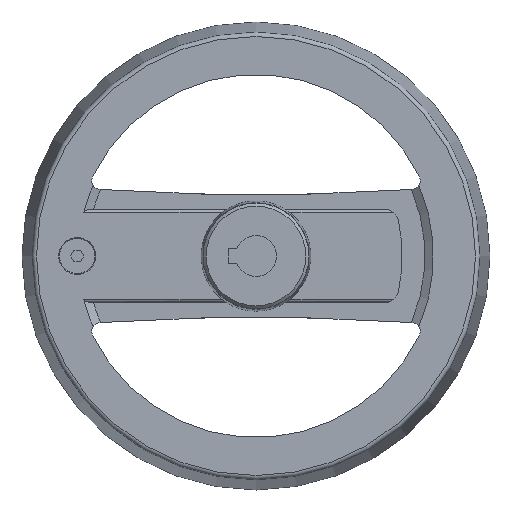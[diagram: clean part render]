
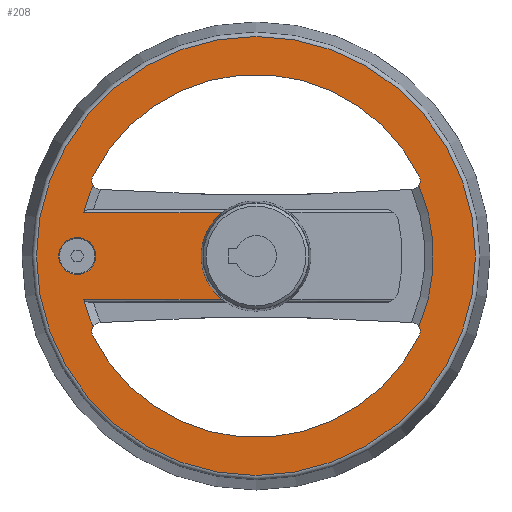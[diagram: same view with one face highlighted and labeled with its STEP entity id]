
A CAD part, left-side view. The second image highlights one B-rep face of the part: STEP entity #208.
In plain terms, the highlighted planar face has unit normal (-1, 0, 0).
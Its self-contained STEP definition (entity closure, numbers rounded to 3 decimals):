
#208 = ADVANCED_FACE( '', ( #370, #371, #372 ), #373, .F. );
#370 = FACE_OUTER_BOUND( '', #635, .T. );
#371 = FACE_BOUND( '', #636, .T. );
#372 = FACE_BOUND( '', #637, .T. );
#373 = PLANE( '', #638 );
#635 = EDGE_LOOP( '', ( #1123 ) );
#636 = EDGE_LOOP( '', ( #1124 ) );
#637 = EDGE_LOOP( '', ( #1125, #1126, #1127, #1128, #1129, #1130, #1131, #1132, #1133, #1134, #1135, #1136 ) );
#638 = AXIS2_PLACEMENT_3D( '', #1137, #1138, #1139 );
#1123 = ORIENTED_EDGE( '', *, *, #1796, .F. );
#1124 = ORIENTED_EDGE( '', *, *, #1723, .T. );
#1125 = ORIENTED_EDGE( '', *, *, #1797, .F. );
#1126 = ORIENTED_EDGE( '', *, *, #1798, .F. );
#1127 = ORIENTED_EDGE( '', *, *, #1799, .F. );
#1128 = ORIENTED_EDGE( '', *, *, #1800, .T. );
#1129 = ORIENTED_EDGE( '', *, *, #1801, .F. );
#1130 = ORIENTED_EDGE( '', *, *, #1802, .F. );
#1131 = ORIENTED_EDGE( '', *, *, #1803, .F. );
#1132 = ORIENTED_EDGE( '', *, *, #1660, .T. );
#1133 = ORIENTED_EDGE( '', *, *, #1804, .T. );
#1134 = ORIENTED_EDGE( '', *, *, #1805, .F. );
#1135 = ORIENTED_EDGE( '', *, *, #1795, .F. );
#1136 = ORIENTED_EDGE( '', *, *, #1806, .T. );
#1137 = CARTESIAN_POINT( '', ( 21.2, 62., -14.74 ) );
#1138 = DIRECTION( '', ( 1., 0., 0. ) );
#1139 = DIRECTION( '', ( 0., 0., -1. ) );
#1660 = EDGE_CURVE( '', #1913, #1921, #1923, .T. );
#1723 = EDGE_CURVE( '', #2036, #2036, #2037, .T. );
#1795 = EDGE_CURVE( '', #2160, #2158, #2162, .T. );
#1796 = EDGE_CURVE( '', #2163, #2163, #2164, .T. );
#1797 = EDGE_CURVE( '', #2165, #2166, #2167, .F. );
#1798 = EDGE_CURVE( '', #2168, #2165, #2169, .F. );
#1799 = EDGE_CURVE( '', #2170, #2168, #2171, .F. );
#1800 = EDGE_CURVE( '', #2170, #2172, #2173, .T. );
#1801 = EDGE_CURVE( '', #2174, #2172, #2175, .F. );
#1802 = EDGE_CURVE( '', #2176, #2174, #2177, .F. );
#1803 = EDGE_CURVE( '', #1913, #2176, #2178, .F. );
#1804 = EDGE_CURVE( '', #1921, #2179, #2180, .T. );
#1805 = EDGE_CURVE( '', #2158, #2179, #2181, .F. );
#1806 = EDGE_CURVE( '', #2160, #2166, #2182, .T. );
#1913 = VERTEX_POINT( '', #2345 );
#1921 = VERTEX_POINT( '', #2368 );
#1923 = CIRCLE( '', #2381, 60.57 );
#2036 = VERTEX_POINT( '', #2687 );
#2037 = CIRCLE( '', #2688, 6.3 );
#2158 = VERTEX_POINT( '', #2985 );
#2160 = VERTEX_POINT( '', #2998 );
#2162 = LINE( '', #3011, #3012 );
#2163 = VERTEX_POINT( '', #3013 );
#2164 = CIRCLE( '', #3014, 74.9 );
#2165 = VERTEX_POINT( '', #3015 );
#2166 = VERTEX_POINT( '', #3016 );
#2167 = CIRCLE( '', #3017, 2.97 );
#2168 = VERTEX_POINT( '', #3018 );
#2169 = CIRCLE( '', #3019, 61.94 );
#2170 = VERTEX_POINT( '', #3020 );
#2171 = CIRCLE( '', #3021, 2.97 );
#2172 = VERTEX_POINT( '', #3022 );
#2173 = CIRCLE( '', #3023, 60.57 );
#2174 = VERTEX_POINT( '', #3024 );
#2175 = CIRCLE( '', #3025, 2.97 );
#2176 = VERTEX_POINT( '', #3026 );
#2177 = CIRCLE( '', #3027, 61.94 );
#2178 = CIRCLE( '', #3028, 2.97 );
#2179 = VERTEX_POINT( '', #3029 );
#2180 = LINE( '', #3030, #3031 );
#2181 = CIRCLE( '', #3032, 18.74 );
#2182 = CIRCLE( '', #3033, 60.57 );
#2345 = CARTESIAN_POINT( '', ( 21.2, 55.586, -24.061 ) );
#2368 = CARTESIAN_POINT( '', ( 21.2, 58.749, -14.74 ) );
#2381 = AXIS2_PLACEMENT_3D( '', #3308, #3309, #3310 );
#2687 = CARTESIAN_POINT( '', ( 21.2, 61., -6.3 ) );
#2688 = AXIS2_PLACEMENT_3D( '', #3376, #3377, #3378 );
#2985 = CARTESIAN_POINT( '', ( 21.2, 11.573, 14.74 ) );
#2998 = CARTESIAN_POINT( '', ( 21.2, 58.749, 14.74 ) );
#3011 = CARTESIAN_POINT( '', ( 21.2, 62., 14.74 ) );
#3012 = VECTOR( '', #3506, 1000. );
#3013 = CARTESIAN_POINT( '', ( 21.2, 0., -74.9 ) );
#3014 = AXIS2_PLACEMENT_3D( '', #3507, #3508, #3509 );
#3015 = CARTESIAN_POINT( '', ( 21.2, 55.745, 27.002 ) );
#3016 = CARTESIAN_POINT( '', ( 21.2, 55.586, 24.061 ) );
#3017 = AXIS2_PLACEMENT_3D( '', #3510, #3511, #3512 );
#3018 = CARTESIAN_POINT( '', ( 21.2, -55.745, 27.002 ) );
#3019 = AXIS2_PLACEMENT_3D( '', #3513, #3514, #3515 );
#3020 = CARTESIAN_POINT( '', ( 21.2, -55.586, 24.061 ) );
#3021 = AXIS2_PLACEMENT_3D( '', #3516, #3517, #3518 );
#3022 = CARTESIAN_POINT( '', ( 21.2, -55.586, -24.061 ) );
#3023 = AXIS2_PLACEMENT_3D( '', #3519, #3520, #3521 );
#3024 = CARTESIAN_POINT( '', ( 21.2, -55.745, -27.002 ) );
#3025 = AXIS2_PLACEMENT_3D( '', #3522, #3523, #3524 );
#3026 = CARTESIAN_POINT( '', ( 21.2, 55.745, -27.002 ) );
#3027 = AXIS2_PLACEMENT_3D( '', #3525, #3526, #3527 );
#3028 = AXIS2_PLACEMENT_3D( '', #3528, #3529, #3530 );
#3029 = CARTESIAN_POINT( '', ( 21.2, 11.573, -14.74 ) );
#3030 = CARTESIAN_POINT( '', ( 21.2, 62., -14.74 ) );
#3031 = VECTOR( '', #3531, 1000. );
#3032 = AXIS2_PLACEMENT_3D( '', #3532, #3533, #3534 );
#3033 = AXIS2_PLACEMENT_3D( '', #3535, #3536, #3537 );
#3308 = CARTESIAN_POINT( '', ( 21.2, 0., 0. ) );
#3309 = DIRECTION( '', ( 1., 0., 0. ) );
#3310 = DIRECTION( '', ( 0., 0., -1. ) );
#3376 = CARTESIAN_POINT( '', ( 21.2, 61., 0. ) );
#3377 = DIRECTION( '', ( 1., 0., 0. ) );
#3378 = DIRECTION( '', ( 0., 0., -1. ) );
#3506 = DIRECTION( '', ( 0., -1., 0. ) );
#3507 = CARTESIAN_POINT( '', ( 21.2, 0., 0. ) );
#3508 = DIRECTION( '', ( 1., 0., 0. ) );
#3509 = DIRECTION( '', ( 0., 0., -1. ) );
#3510 = CARTESIAN_POINT( '', ( 21.2, 53.09, 25.67 ) );
#3511 = DIRECTION( '', ( 1., 0., 0. ) );
#3512 = DIRECTION( '', ( 0., 0., -1. ) );
#3513 = CARTESIAN_POINT( '', ( 21.2, 0., 0. ) );
#3514 = DIRECTION( '', ( 1., 0., 0. ) );
#3515 = DIRECTION( '', ( 0., 0., -1. ) );
#3516 = CARTESIAN_POINT( '', ( 21.2, -53.09, 25.67 ) );
#3517 = DIRECTION( '', ( 1., 0., 0. ) );
#3518 = DIRECTION( '', ( 0., 0., -1. ) );
#3519 = CARTESIAN_POINT( '', ( 21.2, 0., 0. ) );
#3520 = DIRECTION( '', ( 1., 0., 0. ) );
#3521 = DIRECTION( '', ( 0., 0., -1. ) );
#3522 = CARTESIAN_POINT( '', ( 21.2, -53.09, -25.67 ) );
#3523 = DIRECTION( '', ( 1., 0., 0. ) );
#3524 = DIRECTION( '', ( 0., 0., -1. ) );
#3525 = CARTESIAN_POINT( '', ( 21.2, 0., 0. ) );
#3526 = DIRECTION( '', ( 1., 0., 0. ) );
#3527 = DIRECTION( '', ( 0., 0., -1. ) );
#3528 = CARTESIAN_POINT( '', ( 21.2, 53.09, -25.67 ) );
#3529 = DIRECTION( '', ( 1., 0., 0. ) );
#3530 = DIRECTION( '', ( 0., 0., -1. ) );
#3531 = DIRECTION( '', ( 0., -1., 0. ) );
#3532 = CARTESIAN_POINT( '', ( 21.2, 0., 0. ) );
#3533 = DIRECTION( '', ( 1., 0., 0. ) );
#3534 = DIRECTION( '', ( 0., 0., -1. ) );
#3535 = CARTESIAN_POINT( '', ( 21.2, 0., 0. ) );
#3536 = DIRECTION( '', ( 1., 0., 0. ) );
#3537 = DIRECTION( '', ( 0., 0., -1. ) );
